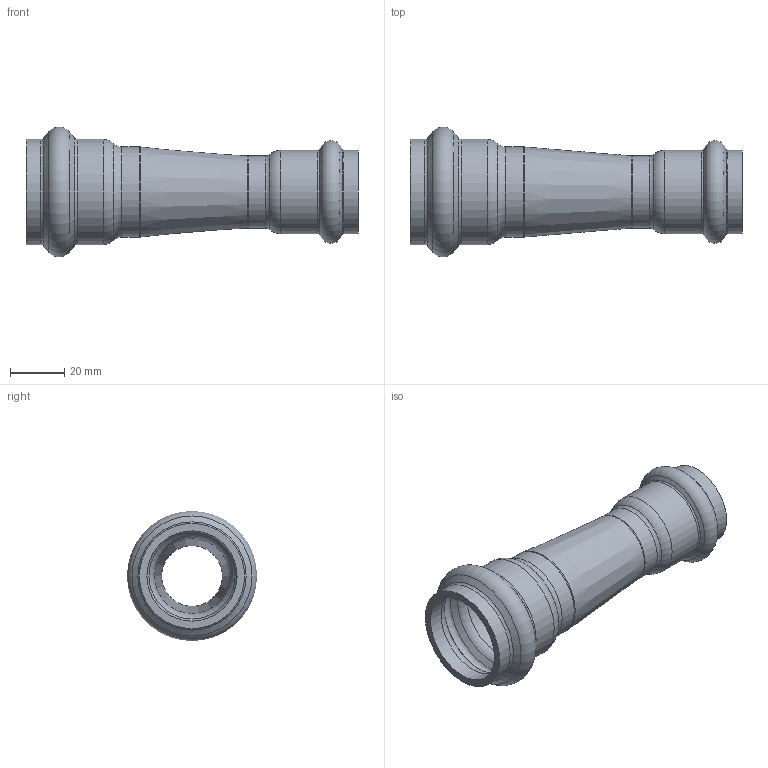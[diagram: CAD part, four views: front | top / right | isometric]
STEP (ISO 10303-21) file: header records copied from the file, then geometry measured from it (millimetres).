
FILE_DESCRIPTION(/* description */ ('VIC REDUCER CONC. STYLE P594 (P X P)','CAx-IF Rec.Pracs.---Representation and Presentation of Product Manufacturing Information (PMI)---4.0---2014-10-13'),/* implementation_level */ '2;1');
FILE_NAME(/* name */ 'C:\Users\Vjadhav\AppData\Roaming\Autodesk\ApplicationPlugins\Back Up\Victaulic_SS-Vic-Press-TP 304_Reducer Concentric_Style P594 (VP)\Victaulic_SS-Vic-Press-TP 304_Reducer Concentric_Style P594 (VP)_01.0x0.75 (25x20).stp',/* time_stamp */ '2020-08-12T18:14:50+06:00',/* author */ ('cgray'),/* organization */ ('Victaulic'),/* preprocessor_version */ 'ST-DEVELOPER v17.2',/* originating_system */ 'Autodesk Inventor 2019',/* authorisation */ '');
FILE_SCHEMA (('AP242_MANAGED_MODEL_BASED_3D_ENGINEERING_MIM_LF { 1 0 10303 442 1 1 4 }'));
Length unit declared in the file: inch
Products named in the file (1): P594-01.0x0.75
Bounding box: 122.94 x 48.13 x 48.13 mm (x, y, z)
Volume: 31836.9 mm3; surface area: 26251.9 mm2
Topology: 1 solids, 1 shells, 48 faces, 182 edges, 136 vertices
Faces by surface type: torus 24, cylinder 12, cone 10, plane 2
Full cylindrical faces by diameter (mm): 22.454 x1, 26.67 x3, 27.864 x1, 30.886 x2, 33.401 x3, 38.938 x2
Entity records: 2282 total; most frequent: DIRECTION 466, CARTESIAN_POINT 384, ORIENTED_EDGE 364, AXIS2_PLACEMENT_3D 222, EDGE_CURVE 182, CIRCLE 160, VERTEX_POINT 136, EDGE_LOOP 50
